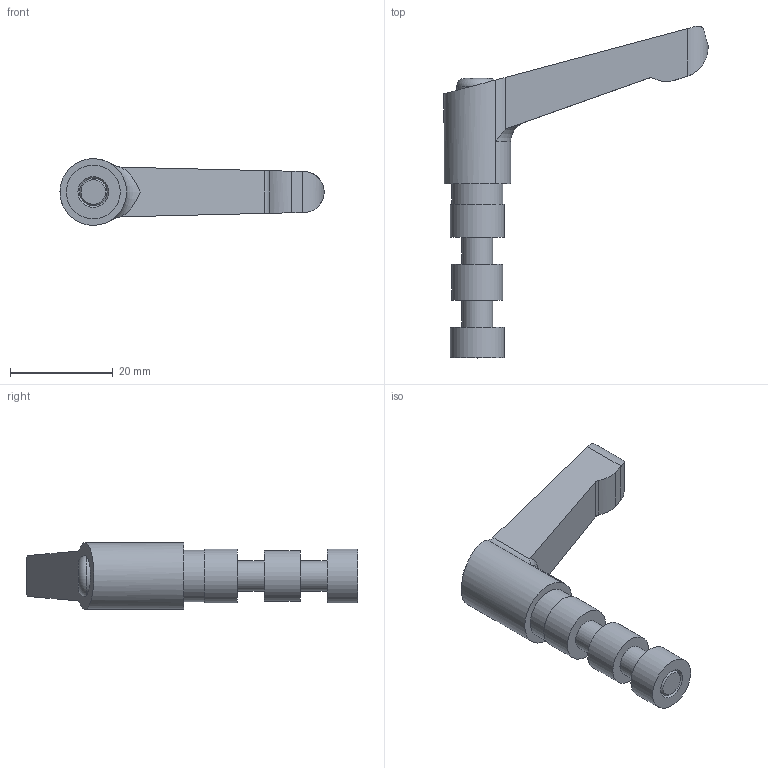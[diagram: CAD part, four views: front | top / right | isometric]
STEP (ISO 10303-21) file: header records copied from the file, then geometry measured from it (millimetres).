
FILE_DESCRIPTION( ( 'STEP AP203' ), '1' );
FILE_NAME( 'C:/Temp/Ganter_Step_05_03_2020/data/3_7/511_1/gn_511_1_k/Swivel clamp mounting GN 511.1-M6-30-K.stp', '2020-03-12T14:38:04', ( 'License CC BY-ND 4.0' ), ( 'CADENAS' ), ' ', 'PARTsolutions', ' ' );
FILE_SCHEMA( ( 'CONFIG_CONTROL_DESIGN' ) );
Length unit declared in the file: millimetre
Products named in the file (1): _Swivel clamp mounting GN 511.1-M6-30-K
Bounding box: 51.5 x 64.73 x 12.98 mm (x, y, z)
Volume: 7542.1 mm3; surface area: 3853 mm2
Topology: 1 solids, 2 shells, 52 faces, 118 edges, 79 vertices
Faces by surface type: cylinder 30, plane 18, torus 2, cone 2
Full cylindrical faces by diameter (mm): 6 x2, 8.3 x1, 9.9 x1, 10 x1, 10.5 x2
Entity records: 1623 total; most frequent: CARTESIAN_POINT 421, DIRECTION 259, ORIENTED_EDGE 212, AXIS2_PLACEMENT_3D 113, EDGE_CURVE 106, VERTEX_POINT 77, EDGE_LOOP 71, FACE_OUTER_BOUND 60
